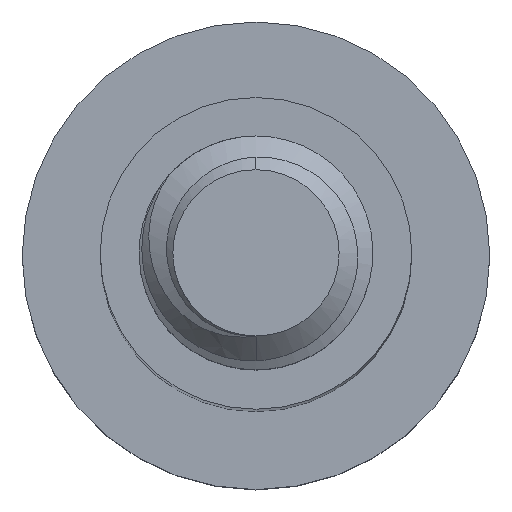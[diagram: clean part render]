
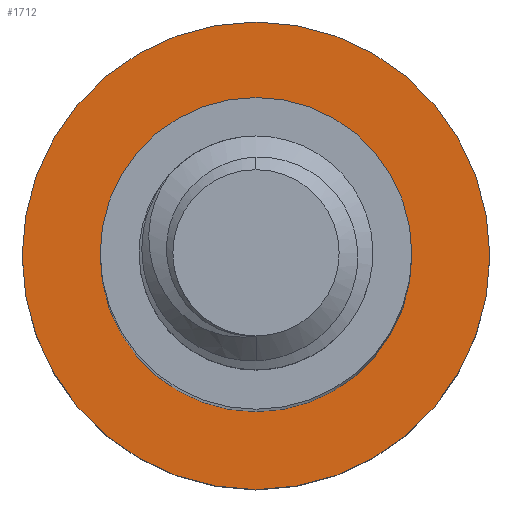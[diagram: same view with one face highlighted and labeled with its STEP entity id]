
A CAD part, top view. The second image highlights one B-rep face of the part: STEP entity #1712.
In plain terms, the highlighted planar face has unit normal (0, 0, 1).
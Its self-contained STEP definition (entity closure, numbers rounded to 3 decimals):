
#104 = DIRECTION ( 'NONE',  ( 0., 0., -1. ) ) ;
#166 = CARTESIAN_POINT ( 'NONE',  ( 0., 0., -18. ) ) ;
#197 = ORIENTED_EDGE ( 'NONE', *, *, #661, .F. ) ;
#281 = ORIENTED_EDGE ( 'NONE', *, *, #1072, .T. ) ;
#286 = EDGE_CURVE ( 'NONE', #1746, #1734, #1215, .T. ) ;
#349 = DIRECTION ( 'NONE',  ( -1., 0., 0. ) ) ;
#385 = CIRCLE ( 'NONE', #1036, 3. ) ;
#461 = AXIS2_PLACEMENT_3D ( 'NONE', #1673, #104, #1853 ) ;
#493 = EDGE_LOOP ( 'NONE', ( #197, #1021 ) ) ;
#512 = FACE_BOUND ( 'NONE', #1209, .T. ) ;
#551 = EDGE_CURVE ( 'NONE', #2115, #1472, #385, .T. ) ;
#654 = FACE_OUTER_BOUND ( 'NONE', #493, .T. ) ;
#661 = EDGE_CURVE ( 'NONE', #1472, #2115, #1959, .T. ) ;
#826 = CARTESIAN_POINT ( 'NONE',  ( 2., 0., -18. ) ) ;
#854 = PLANE ( 'NONE',  #1562 ) ;
#921 = ORIENTED_EDGE ( 'NONE', *, *, #286, .T. ) ;
#962 = AXIS2_PLACEMENT_3D ( 'NONE', #1730, #1699, #349 ) ;
#1021 = ORIENTED_EDGE ( 'NONE', *, *, #551, .F. ) ;
#1036 = AXIS2_PLACEMENT_3D ( 'NONE', #2047, #1883, #1535 ) ;
#1072 = EDGE_CURVE ( 'NONE', #1734, #1746, #1443, .T. ) ;
#1144 = CARTESIAN_POINT ( 'NONE',  ( -3., 0., -18. ) ) ;
#1209 = EDGE_LOOP ( 'NONE', ( #921, #281 ) ) ;
#1215 = CIRCLE ( 'NONE', #461, 2. ) ;
#1327 = DIRECTION ( 'NONE',  ( 0., 0., -1. ) ) ;
#1443 = CIRCLE ( 'NONE', #1812, 2. ) ;
#1458 = CARTESIAN_POINT ( 'NONE',  ( 0., 0., -18. ) ) ;
#1472 = VERTEX_POINT ( 'NONE', #1957 ) ;
#1535 = DIRECTION ( 'NONE',  ( -1., 0., 0. ) ) ;
#1562 = AXIS2_PLACEMENT_3D ( 'NONE', #166, #1327, #2036 ) ;
#1615 = DIRECTION ( 'NONE',  ( -1., 0., 0. ) ) ;
#1673 = CARTESIAN_POINT ( 'NONE',  ( 0., 0., -18. ) ) ;
#1699 = DIRECTION ( 'NONE',  ( 0., 0., -1. ) ) ;
#1712 = ADVANCED_FACE ( 'NONE', ( #512, #654 ), #854, .F. ) ;
#1730 = CARTESIAN_POINT ( 'NONE',  ( 0., 0., -18. ) ) ;
#1734 = VERTEX_POINT ( 'NONE', #826 ) ;
#1746 = VERTEX_POINT ( 'NONE', #1909 ) ;
#1812 = AXIS2_PLACEMENT_3D ( 'NONE', #1458, #2153, #1615 ) ;
#1853 = DIRECTION ( 'NONE',  ( -1., 0., 0. ) ) ;
#1883 = DIRECTION ( 'NONE',  ( 0., 0., -1. ) ) ;
#1909 = CARTESIAN_POINT ( 'NONE',  ( -2., 0., -18. ) ) ;
#1957 = CARTESIAN_POINT ( 'NONE',  ( 3., 0., -18. ) ) ;
#1959 = CIRCLE ( 'NONE', #962, 3. ) ;
#2036 = DIRECTION ( 'NONE',  ( -1., 0., 0. ) ) ;
#2047 = CARTESIAN_POINT ( 'NONE',  ( 0., 0., -18. ) ) ;
#2115 = VERTEX_POINT ( 'NONE', #1144 ) ;
#2153 = DIRECTION ( 'NONE',  ( 0., 0., -1. ) ) ;
